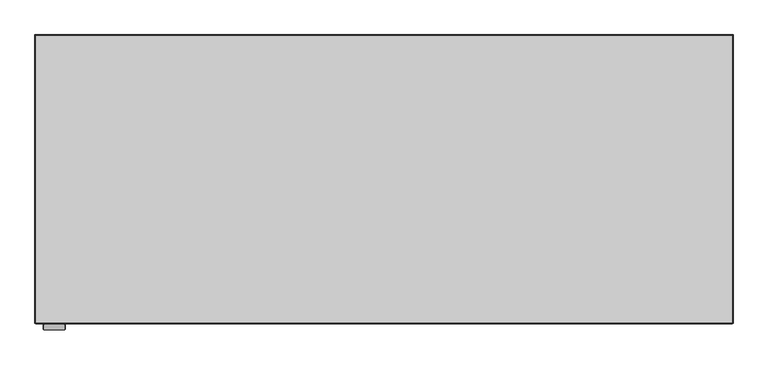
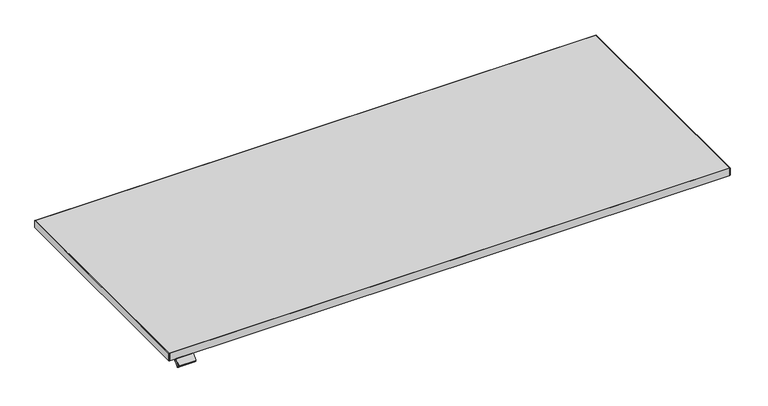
"""IFC4 building model written with IfcOpenShell, lengths in millimetres: furniture geometry, Steelcase - Migration SE - Desk - Rectangular - T Leg : 29D x 70W."""

from ifc_helpers import new_model, si_unit, point, frame, frame_2d, origin, place, context, project, spatial, polyline, circle_curve, trimmed, segment, composite_curve, outline, extrude, faceted_brep, source, transform, mapped, element, save
from ifc_brep_helpers import plane_surface, cylinder_surface, advanced_brep


def furniture_0e0e5a21(model_context):
    return source(origin(), model_context, "Body", "SolidModel", [
        advanced_brep(
        [(-712.1377438, -419.5454312, 714.902), (-712.1377438, -451.6, 714.902), (-662.6377614, -451.6, 714.902), (-662.6377614, -419.5454312, 714.902), (-662.6377614, -419.5454312, 707.1581454), (-662.6377614, -446.6161373, 707.1581454), (-712.1377438, -446.6161373, 707.1581454), (-712.1377438, -419.5454312, 707.1581454), (-662.6377614, -451.6, 711.3662703), (-662.6377614, -449.1527665, 713.8135038), (-662.6377614, -444.5567727, 709.21751), (-712.1377438, -451.6, 711.3662703), (-712.1377438, -444.5567727, 709.21751), (-712.1377438, -449.1527665, 713.8135038), (-661.1885979, -449.1527665, 713.8135038), (-713.486, -449.1527665, 713.8135038), (-715.518, -450.5896075, 712.3766628), (-715.518, -464.8280905, 698.1381797), (-713.486, -466.2649315, 696.7013388), (-661.5656329, -466.2649315, 696.7013388), (-659.3357614, -464.6881742, 698.2780961), (-659.3357614, -450.4629198, 712.5033505), (-713.486, -444.5567727, 709.21751), (-661.1885979, -444.5567727, 709.21751), (-659.3357614, -445.866926, 707.9073567), (-659.3357614, -460.0921804, 693.6821023), (-661.5656329, -461.6689377, 692.105345), (-713.486, -461.6689377, 692.105345), (-715.518, -460.2320967, 693.542186), (-715.518, -445.9936137, 707.780669)],
        [
            (0, 1),
            (1, 2),
            (2, 3),
            (3, 0),
            (4, 5),
            (5, 6),
            (6, 7),
            (7, 4),
            (3, 4),
            (7, 0),
            (2, 8),
            (8, 9),
            (9, 10),
            (10, 5),
            (1, 11),
            (11, 8),
            (6, 12),
            (12, 13),
            (13, 11),
            (14, 9),
            (13, 15),
            (15, 16, circle_curve(frame((-713.486, -450.5896075, 712.3766628), z_axis=(0.0, -0.7071067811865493, 0.7071067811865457), x_axis=(0.0, -0.7071067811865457, -0.7071067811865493)), 2.032)),
            (16, 17),
            (17, 18, circle_curve(frame((-713.486, -464.8280905, 698.1381797), z_axis=(0.0, -0.7071067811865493, 0.7071067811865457), x_axis=(0.0, -0.7071067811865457, -0.7071067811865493)), 2.032)),
            (18, 19),
            (19, 20, circle_curve(frame((-661.5656329, -464.6881742, 698.2780961), z_axis=(0.0, -0.7071067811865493, 0.7071067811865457), x_axis=(0.0, -0.7071067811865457, -0.7071067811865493)), 2.2298716)),
            (20, 21),
            (21, 14, circle_curve(frame((-661.1885979, -450.4629198, 712.5033505), z_axis=(0.0, -0.7071067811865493, 0.7071067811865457), x_axis=(0.0, -0.7071067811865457, -0.7071067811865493)), 1.8528366)),
            (22, 12),
            (10, 23),
            (23, 24, circle_curve(frame((-661.1885979, -445.866926, 707.9073567), z_axis=(0.0, 0.7071067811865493, -0.7071067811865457), x_axis=(0.0, -0.7071067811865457, -0.7071067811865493)), 1.8528366)),
            (24, 25),
            (25, 26, circle_curve(frame((-661.5656329, -460.0921804, 693.6821023), z_axis=(0.0, 0.7071067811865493, -0.7071067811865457), x_axis=(0.0, -0.7071067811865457, -0.7071067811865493)), 2.2298716)),
            (26, 27),
            (27, 28, circle_curve(frame((-713.486, -460.2320967, 693.542186), z_axis=(0.0, 0.7071067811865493, -0.7071067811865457), x_axis=(0.0, -0.7071067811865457, -0.7071067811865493)), 2.032)),
            (28, 29),
            (29, 22, circle_curve(frame((-713.486, -445.9936137, 707.780669), z_axis=(0.0, 0.7071067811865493, -0.7071067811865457), x_axis=(0.0, -0.7071067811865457, -0.7071067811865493)), 2.032)),
            (22, 15),
            (14, 23),
            (21, 24),
            (20, 25),
            (19, 26),
            (18, 27),
            (17, 28),
            (16, 29),
        ],
        [
            plane_surface(frame((-662.6377614, -419.5454312, 714.902), z_axis=(0.0, 0.0, 1.0), x_axis=(1.0, 0.0, 0.0))),
            plane_surface(frame((-662.6377614, -419.5454312, 707.1581454), z_axis=(0.0, 0.0, -1.0), x_axis=(-1.0, 0.0, 0.0))),
            plane_surface(frame((-712.1377438, -419.5454312, 714.902), z_axis=(0.0, 1.0, 0.0), x_axis=(0.0, 0.0, -1.0))),
            plane_surface(frame((-662.6377614, -419.5454312, 714.902), z_axis=(1.0, 0.0, 0.0), x_axis=(0.0, 0.0, -1.0))),
            plane_surface(frame((-662.6377614, -451.6, 714.902), z_axis=(0.0, -1.0, 0.0), x_axis=(0.0, 0.0, -1.0))),
            plane_surface(frame((-712.1377438, -451.6, 714.902), z_axis=(-1.0, 0.0, 0.0), x_axis=(0.0, 0.0, -1.0))),
            plane_surface(frame((-661.1885979, -449.1527665, 713.8135038), z_axis=(0.0, -0.7071067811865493, 0.7071067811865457), x_axis=(1.0, 0.0, 0.0))),
            plane_surface(frame((-661.1885979, -444.5567727, 709.21751), z_axis=(0.0, 0.7071067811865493, -0.7071067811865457), x_axis=(-1.0, 0.0, 0.0))),
            plane_surface(frame((-713.486, -449.1527665, 713.8135038), z_axis=(0.0, 0.7071067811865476, 0.7071067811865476), x_axis=(0.0, 0.7071067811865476, -0.7071067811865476))),
            cylinder_surface(frame((-661.1885979, -445.866926, 707.9073567), z_axis=(0.0, -0.7071067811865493, 0.7071067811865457), x_axis=(0.0, -0.7071067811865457, -0.7071067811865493)), 1.8528366),
            plane_surface(frame((-659.3357614, -450.4629198, 712.5033505), z_axis=(1.0000000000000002, 0.0, 0.0), x_axis=(0.0, 0.7071067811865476, -0.7071067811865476))),
            cylinder_surface(frame((-661.5656329, -460.0921804, 693.6821023), z_axis=(0.0, -0.7071067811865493, 0.7071067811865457), x_axis=(0.0, -0.7071067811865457, -0.7071067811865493)), 2.2298716),
            plane_surface(frame((-661.5656329, -466.2649315, 696.7013388), z_axis=(0.0, -0.7071067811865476, -0.7071067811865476), x_axis=(0.0, 0.7071067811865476, -0.7071067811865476))),
            cylinder_surface(frame((-713.486, -460.2320967, 693.542186), z_axis=(0.0, -0.7071067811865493, 0.7071067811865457), x_axis=(0.0, -0.7071067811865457, -0.7071067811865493)), 2.032),
            plane_surface(frame((-715.518, -464.8280905, 698.1381797), z_axis=(-1.0, 0.0, 0.0), x_axis=(0.0, 0.7071067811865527, -0.7071067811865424))),
            cylinder_surface(frame((-713.486, -445.9936137, 707.780669), z_axis=(0.0, -0.7071067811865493, 0.7071067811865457), x_axis=(0.0, -0.7071067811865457, -0.7071067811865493)), 2.032),
        ],
        [
            (0, [[1, 2, 3, 4]]),
            (1, [[5, 6, 7, 8]]),
            (2, [[9, -8, 10, -4]]),
            (3, [[11, 12, 13, 14, -5, -9, -3]]),
            (4, [[15, 16, -11, -2]]),
            (5, [[-10, -7, 17, 18, 19, -15, -1]]),
            (6, [[20, -12, -16, -19, 21, 22, 23, 24, 25, 26, 27, 28]]),
            (7, [[29, -17, -6, -14, 30, 31, 32, 33, 34, 35, 36, 37]]),
            (8, [[-21, -18, -29, 38]]),
            (8, [[-30, -13, -20, 39]]),
            (9, [[40, -31, -39, -28]]),
            (10, [[41, -32, -40, -27]]),
            (11, [[42, -33, -41, -26]]),
            (12, [[43, -34, -42, -25]]),
            (13, [[44, -35, -43, -24]]),
            (14, [[45, -36, -44, -23]]),
            (15, [[-38, -37, -45, -22]]),
        ],
    ),
        extrude(outline(composite_curve([segment(polyline([(48.6765212, 0.0), (0.0, 0.0)]), True, "CONTINUOUS"), segment(trimmed(circle_curve(frame_2d((0.0, 2.8504615)), 2.8504615), [point((0.0, 0.0))], [point((-2.8504616, 2.8504615))], False, "CARTESIAN"), True, "CONTINUOUS"), segment(polyline([(-2.8504616, 2.8504615), (-2.8504616, 19.0283589)]), True, "CONTINUOUS"), segment(trimmed(circle_curve(frame_2d((-0.0003332, 19.0283589)), 2.8501284), [point((-2.8504616, 19.0283589))], [point((-0.0003332, 21.8784873))], False, "CARTESIAN"), True, "CONTINUOUS"), segment(polyline([(-0.0003332, 21.8784873), (48.7382411, 21.8784873)]), True, "CONTINUOUS"), segment(trimmed(circle_curve(frame_2d((48.7382411, 18.8922072)), 2.9862801), [point((48.7382411, 21.8784873))], [point((51.7245212, 18.8922072))], False, "CARTESIAN"), True, "CONTINUOUS"), segment(polyline([(51.7245212, 18.8922072), (51.7245212, 3.048)]), True, "CONTINUOUS"), segment(trimmed(circle_curve(frame_2d((48.6765212, 3.048)), 3.048), [point((51.7245212, 3.048))], [point((48.6765212, 0.0))], False, "CARTESIAN"), True, "CONTINUOUS")], self_intersect=False)), frame((-662.8979479, -443.782049, 706.7937033), z_axis=(0.0, -0.7071067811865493, 0.7071067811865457), x_axis=(-1.0, 0.0, 0.0)), (0.0, 0.0, 1.0), 11.2615577),
        extrude(outline(polyline([(-735.8379612, -450.0014375), (1040.637937, -450.0014375), (1039.0393744, -451.6), (-734.2393744, -451.6), (-735.8379612, -450.0014375)])), frame((0.0, 0.0, 714.902), z_axis=(0.0, 0.0, 1.0), x_axis=(1.0, 0.0, 0.0)), (0.0, 0.0, 1.0), 25.0),
        faceted_brep([(1039.0395821, -451.5997924, 714.902), (1039.5783794, -452.1386142, 715.6639919), (1039.5783794, -452.1386142, 739.1400081), (1039.0395821, -451.5997924, 739.902), (1041.3996132, -450.3174632, 739.1400081), (1041.3996132, -450.3174632, 715.6639919), (1041.3996132, 285.0003864, 715.6639919), (1041.3996132, 285.0003864, 739.1400081), (1040.6376214, -450.0018257, 714.902), (1040.6376214, -450.0018257, 739.902), (1040.6376214, 284.2383946, 739.902), (1040.6376214, 284.2383946, 714.902), (-736.6, 285.0003864, 715.6639919), (-736.6, 285.0003864, 739.1400081), (-735.8380081, 284.2383946, 739.902), (-735.8380081, 284.2383946, 714.902), (-734.2395821, -451.5997924, 714.902), (-734.2395821, -451.5997924, 739.902), (-734.7783876, -452.138606, 739.1400081), (-734.7783876, -452.138606, 715.6639919), (-736.6, -450.3170212, 715.6639919), (-736.6, -450.3170212, 739.1400081), (-735.8380081, -450.0013905, 739.902), (-735.8380081, -450.0013905, 714.902)], [[[0, 1, 2, 3]], [[4, 5, 6, 7]], [[8, 9, 10, 11]], [[7, 6, 12, 13]], [[11, 10, 14, 15]], [[16, 17, 18, 19]], [[13, 12, 20, 21]], [[15, 14, 22, 23]], [[5, 8, 11, 6]], [[9, 4, 7, 10]], [[6, 11, 15, 12]], [[10, 7, 13, 14]], [[12, 15, 23, 20]], [[14, 13, 21, 22]], [[1, 0, 8, 5]], [[2, 1, 5, 4]], [[3, 2, 4, 9]], [[0, 3, 9, 8]], [[20, 23, 16, 19]], [[21, 20, 19, 18]], [[22, 21, 18, 17]], [[23, 22, 17, 16]]]),
        extrude(outline(polyline([(1040.6376214, 284.2383946), (1040.6376214, -450.0014375), (-735.8380081, -450.0014375), (-735.8380081, 284.2383946), (1040.6376214, 284.2383946)])), frame((0.0, 0.0, 714.902), z_axis=(0.0, 0.0, 1.0), x_axis=(1.0, 0.0, 0.0)), (0.0, 0.0, 1.0), 25.0),
    ])


if __name__ == "__main__":
    model = new_model("IFC4")
    model_context = context("Model", 3, world=origin())
    ifc_project = project(units=[si_unit("LENGTHUNIT", "METRE", prefix="MILLI")], contexts=[model_context])
    site = spatial("IfcSite", under=ifc_project)
    building = spatial("IfcBuilding", under=site)
    placement = place(None, origin())
    furniture_shape = furniture_0e0e5a21(model_context)
    element("IfcFurniture", 1, ObjectType="Steelcase - Migration SE - Desk - Rectangular - T Leg : 29D x 70W", at=placement, inside=building, context=model_context, shape_type="MappedRepresentation", body=[
        mapped(furniture_shape, transform((0.0, 0.0, 0.0), x_axis=(1.0, 0.0, 0.0), y_axis=(0.0, 1.0, 0.0), z_axis=(0.0, 0.0, 1.0))),
    ])
    save(model, "model.ifc")
